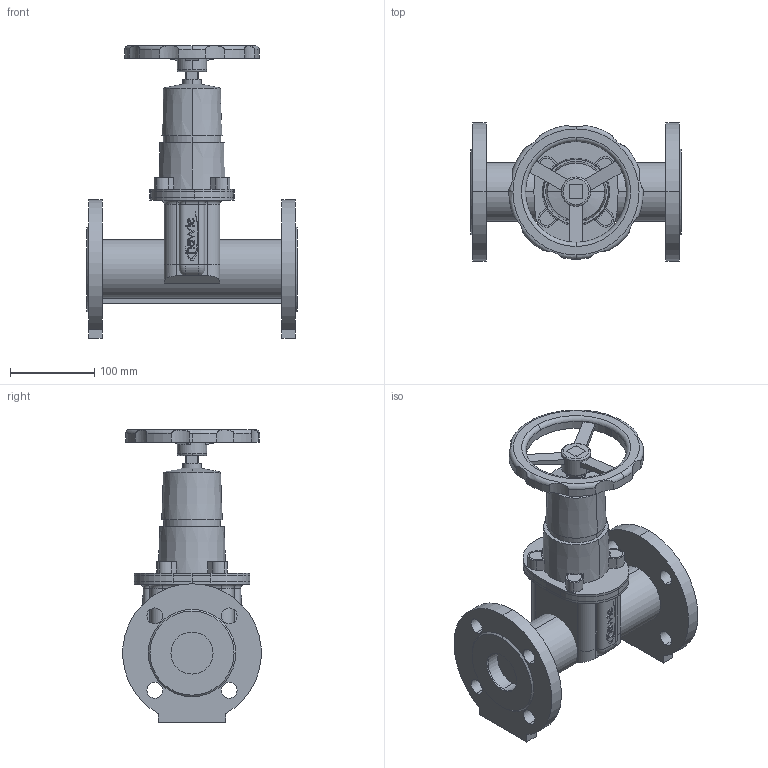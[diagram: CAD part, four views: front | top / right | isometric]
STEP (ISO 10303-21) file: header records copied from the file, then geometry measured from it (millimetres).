
FILE_DESCRIPTION(('STEP AP214'),'1');
FILE_NAME('S:/EK/USER/CAT6/3DHomepage/4700E2/4700E2-PN16-DN50-HANDRAD.STP','2012-04-23T12:16:53',(' '),(' '),'Spatial InterOp 3D',' ',' ');
FILE_SCHEMA(('automotive_design'));
Length unit declared in the file: millimetre
Products named in the file (63): 3D-Objekt
Bounding box: 250 x 164.52 x 348.5 mm (x, y, z)
Volume: 2925326.3 mm3; surface area: 456080.1 mm2
Topology: 63 solids, 63 shells, 561 faces, 1291 edges, 862 vertices
Faces by surface type: plane 307, cylinder 224, torus 20, cone 10
Entity records: 22304 total; most frequent: CARTESIAN_POINT 3055, DIRECTION 3055, ORIENTED_EDGE 2582, EDGE_CURVE 1291, AXIS2_PLACEMENT_3D 1150, VERTEX_POINT 862, LINE 755, VECTOR 755
